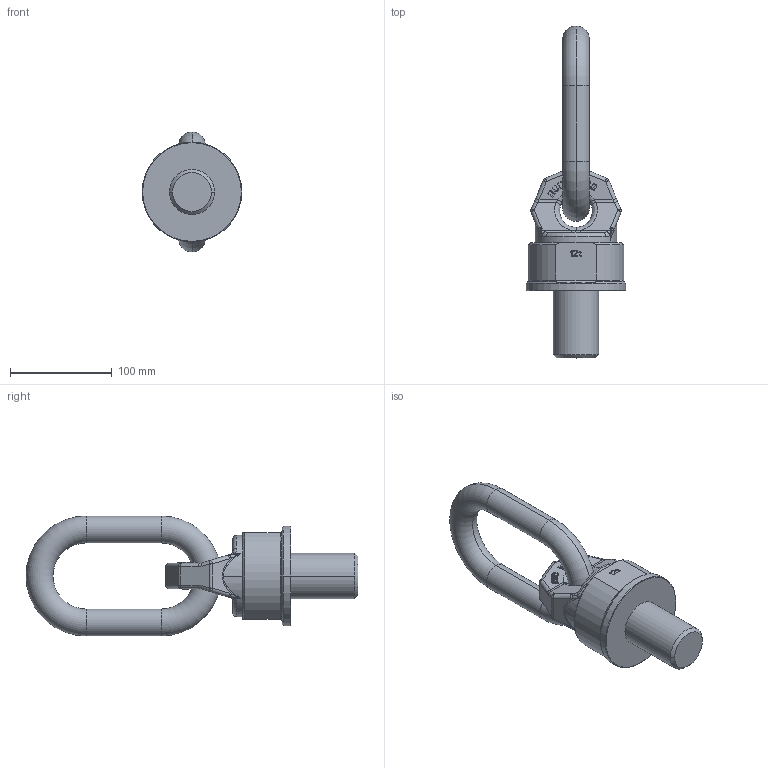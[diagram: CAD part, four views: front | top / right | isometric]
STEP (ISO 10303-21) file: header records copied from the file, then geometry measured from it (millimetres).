
FILE_DESCRIPTION((''),'2;1');
FILE_NAME('001-M34115-P-20_ASM','2019-06-27T',('anja.joas'),(''),'PRO/ENGINEER BY PARAMETRIC TECHNOLOGY CORPORATION, 2011490','PRO/ENGINEER BY PARAMETRIC TECHNOLOGY CORPORATION, 2011490','');
FILE_SCHEMA(('CONFIG_CONTROL_DESIGN'));
Length unit declared in the file: millimetre
Products named in the file (4): 001-M33245-P-10_AF0; 001-M33243-P-10; 001-M31050-P-03; 001-M34115-P-20_ASM
Assembly tree (3 placements, depth 2):
  001-M34115-P-20_ASM
    001-M33245-P-10_AF0
    001-M33243-P-10
    001-M31050-P-03
Bounding box: 98 x 326.5 x 118 mm (x, y, z)
Volume: 826241.6 mm3; surface area: 97796.7 mm2
Topology: 3 solids, 3 shells, 426 faces, 1133 edges, 724 vertices
Faces by surface type: plane 289, cylinder 63, bspline 56, torus 10, cone 8
Entity records: 14912 total; most frequent: CARTESIAN_POINT 4609, ORIENTED_EDGE 2258, DIRECTION 1901, EDGE_CURVE 1129, VECTOR 851, LINE 851, VERTEX_POINT 724, AXIS2_PLACEMENT_3D 525
